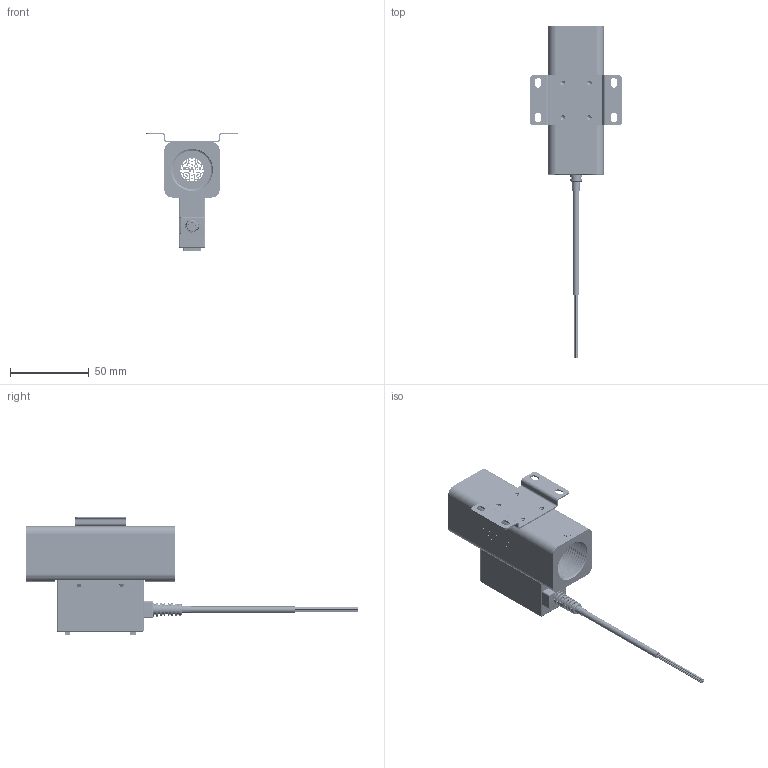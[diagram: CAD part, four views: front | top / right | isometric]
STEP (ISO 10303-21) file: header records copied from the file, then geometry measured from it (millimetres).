
FILE_DESCRIPTION( (''), '2;1');
FILE_NAME( 'QGKE_2000L_3-4in.step', '2025-05-09T16:20:46+08:00', (''), (''), '', '', '');
FILE_SCHEMA (('AUTOMOTIVE_DESIGN { 1 0 10303 214 3 1 1 1 }'));
Products named in the file (1): QGKE 2000L_3-4in
Bounding box: 58 x 210.12 x 75 mm (x, y, z)
Volume: 86645.6 mm3; surface area: 55049.1 mm2
Topology: 12 solids, 12 shells, 3235 faces, 9376 edges, 6187 vertices
Faces by surface type: cylinder 2443, plane 628, cone 70, bspline 45, torus 31, extrusion 10, sphere 8
Full cylindrical faces by diameter (mm): 0.5 x2070, 0.8 x2, 1.2 x2, 1.6 x4, 2.5 x14, 3 x10, 5 x2, 8 x2, 15 x1, 20 x2, 22.8 x3, 23 x2, 24.5 x2, 27 x4
Entity records: 112905 total; most frequent: CARTESIAN_POINT 23582, DIRECTION 18366, ORIENTED_EDGE 14340, EDGE_LOOP 9657, FACE_BOUND 8676, AXIS2_PLACEMENT_3D 8236, EDGE_CURVE 7170, VERTEX_POINT 6161
